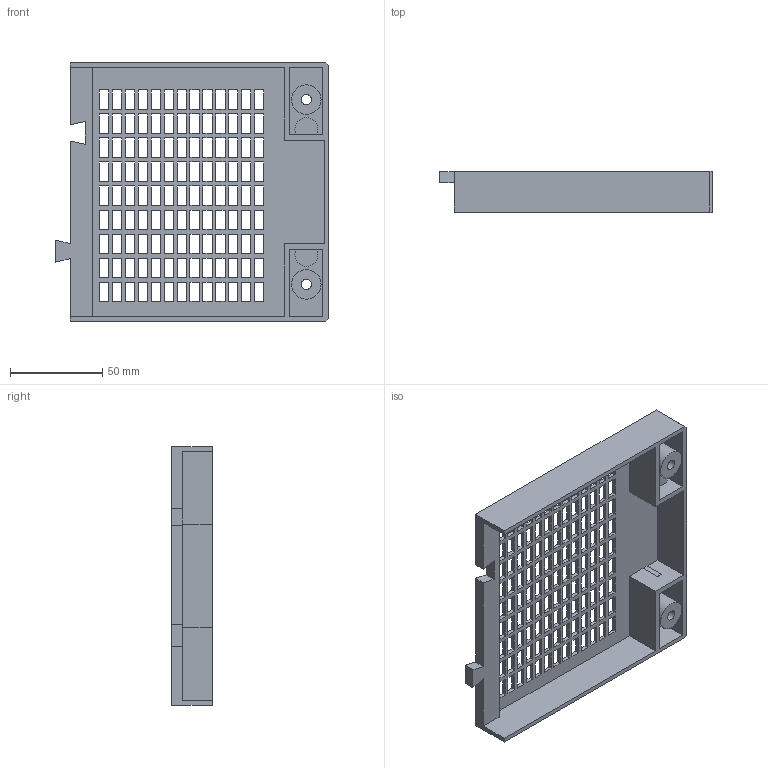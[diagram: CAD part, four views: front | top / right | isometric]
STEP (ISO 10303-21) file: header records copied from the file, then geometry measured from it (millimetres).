
FILE_DESCRIPTION(('Open CASCADE Model'),'2;1');
FILE_NAME('Open CASCADE Shape Model','2026-10-28T13:12:27',('Author'),( 'Open CASCADE'),'Open CASCADE STEP processor 7.9','Open CASCADE 7.9' ,'Unknown');
FILE_SCHEMA(('AUTOMOTIVE_DESIGN { 1 0 10303 214 1 1 1 1 }'));
Length unit declared in the file: millimetre
Products named in the file (1): Open CASCADE STEP translator 7.9 4
Bounding box: 147.8 x 22 x 140 mm (x, y, z)
Volume: 67895.4 mm3; surface area: 61392.3 mm2
Topology: 1 solids, 1 shells, 526 faces, 1548 edges, 1032 vertices
Faces by surface type: plane 514, cylinder 12
Full cylindrical faces by diameter (mm): 5.5 x2, 6.4 x2, 10.5 x2, 16 x2
Entity records: 36304 total; most frequent: CARTESIAN_POINT 7755, DIRECTION 4220, LINE 3104, VECTOR 3104, ORIENTED_EDGE 3096, PCURVE 3096, DEFINITIONAL_REPRESENTATION 3096, EDGE_CURVE 1548
